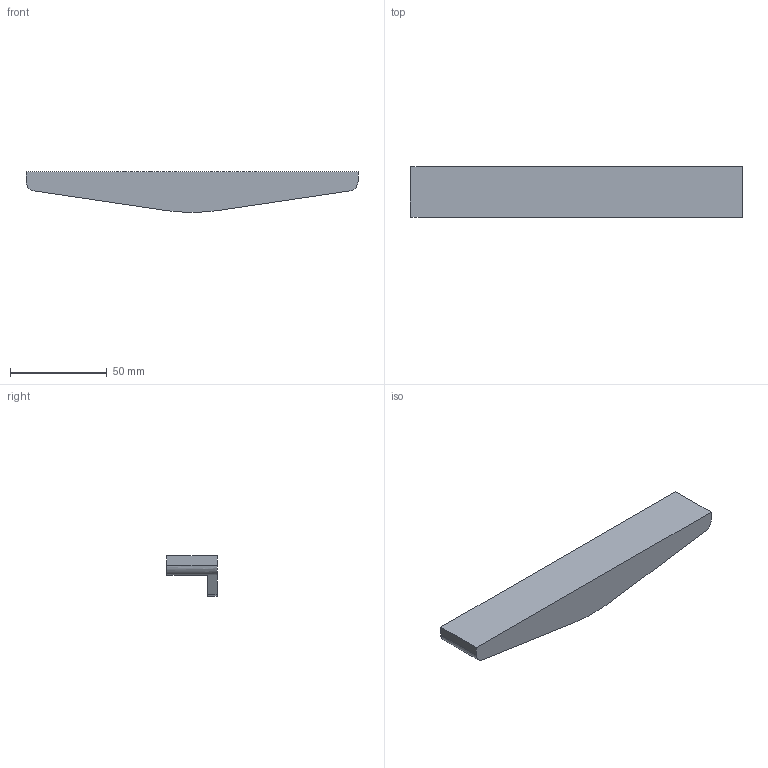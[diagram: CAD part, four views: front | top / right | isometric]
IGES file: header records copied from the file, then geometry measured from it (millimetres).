
Start section: Data from Parasolid IGES Translator 15.0.47, Copyright(c) 2006 Siemens P LM Software. All Rights Reserved.
Global section: file name: 9080864.igs; native system:  By UGS Corp.; preprocessor: XPlus GENERIC/IGES 3.0; author: Noname; organization: Noname; date: 20140122.172017; units: millimetre
Bounding box: 172 x 26 x 21 mm (x, y, z)
Surface area: 15137.4 mm2 (no closed solid volume)
Topology: 0 solids, 0 shells, 21 faces, 102 edges, 100 vertices
Faces by surface type: extrusion 15, revolution 6
